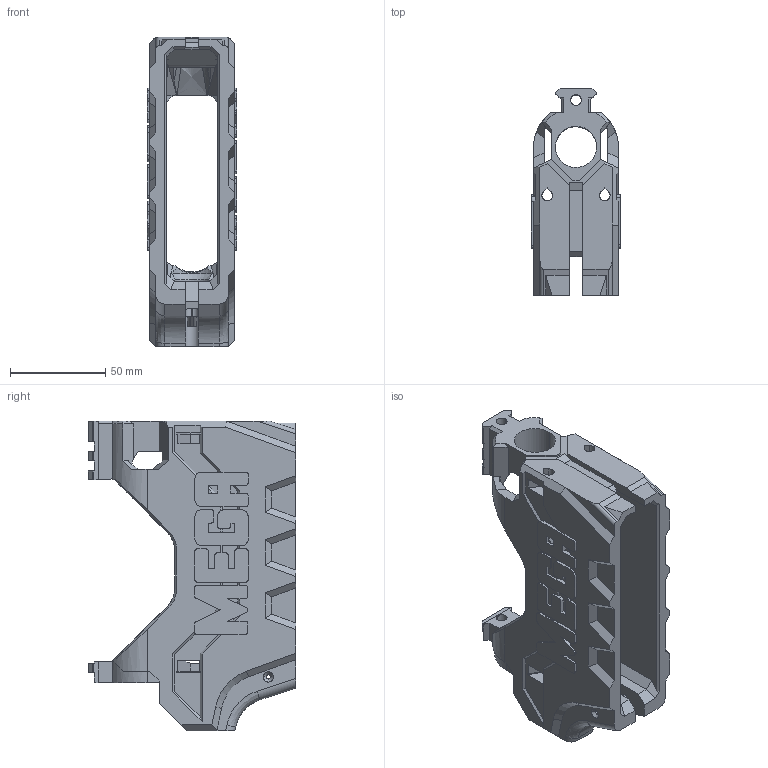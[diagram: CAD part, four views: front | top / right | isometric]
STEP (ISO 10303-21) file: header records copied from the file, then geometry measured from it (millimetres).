
FILE_DESCRIPTION (( 'STEP AP203' ), '1' );
FILE_NAME ('MagWell_M.STEP', '2020-01-06T21:35:48', ( '' ), ( '' ), 'SwSTEP 2.0', 'SolidWorks 2019', '' );
FILE_SCHEMA (( 'CONFIG_CONTROL_DESIGN' ));
Length unit declared in the file: millimetre
Products named in the file (1): MagWell_M
Bounding box: 46.74 x 108.54 x 162.5 mm (x, y, z)
Volume: 245457.9 mm3; surface area: 73452.7 mm2
Topology: 1 solids, 1 shells, 698 faces, 2065 edges, 1355 vertices
Faces by surface type: plane 478, bspline 148, cylinder 72
Entity records: 27117 total; most frequent: CARTESIAN_POINT 12958, ORIENTED_EDGE 4130, EDGE_CURVE 2065, B_SPLINE_CURVE_WITH_KNOTS 2046, VERTEX_POINT 1355, DIRECTION 1103, EDGE_LOOP 726, ADVANCED_FACE 698
